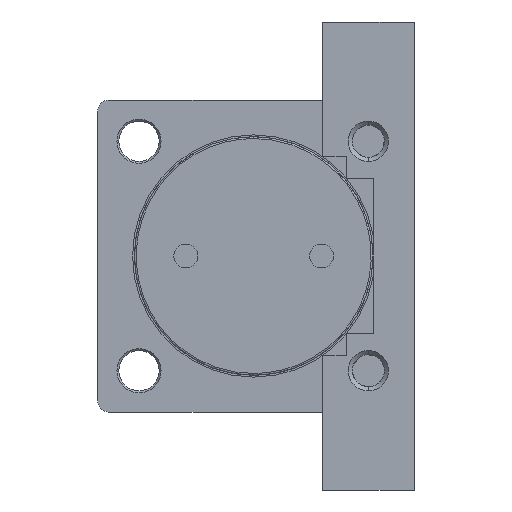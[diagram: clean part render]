
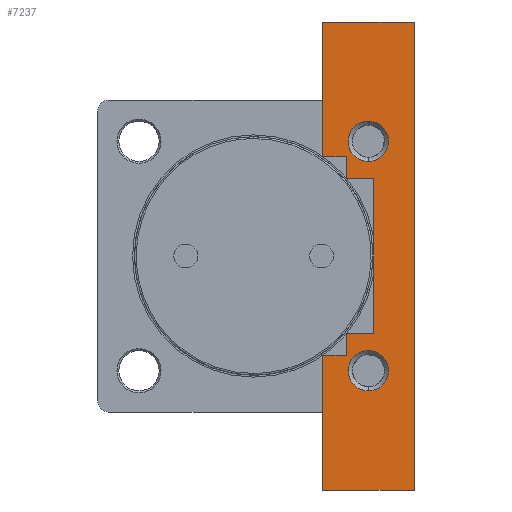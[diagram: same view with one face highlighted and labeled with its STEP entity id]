
A CAD part, left-side view. The second image highlights one B-rep face of the part: STEP entity #7237.
In plain terms, the highlighted planar face has unit normal (1, 0, 0).
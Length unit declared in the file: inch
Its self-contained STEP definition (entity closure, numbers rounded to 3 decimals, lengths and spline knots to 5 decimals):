
#202 = CARTESIAN_POINT ( 'NONE',  ( -3.01181, -1.98819, 1.65354 ) ) ;
#213 = FACE_OUTER_BOUND ( 'NONE', #12217, .T. ) ;
#378 = DIRECTION ( 'NONE',  ( 0., 1., 0. ) ) ;
#395 = CARTESIAN_POINT ( 'NONE',  ( -3.01181, -3.44488, -5.01969 ) ) ;
#454 = DIRECTION ( 'NONE',  ( 0., -1., 0. ) ) ;
#516 = CARTESIAN_POINT ( 'NONE',  ( -3.01181, -3.44488, -1.65354 ) ) ;
#545 = VECTOR ( 'NONE', #3763, 39.37008 ) ;
#566 = VECTOR ( 'NONE', #2225, 39.37008 ) ;
#682 = LINE ( 'NONE', #12810, #545 ) ;
#784 = LINE ( 'NONE', #8628, #566 ) ;
#795 = CARTESIAN_POINT ( 'NONE',  ( -3.01181, -2.46063, -2.02756 ) ) ;
#843 = ORIENTED_EDGE ( 'NONE', *, *, #10083, .T. ) ;
#872 = VERTEX_POINT ( 'NONE', #3889 ) ;
#931 = CARTESIAN_POINT ( 'NONE',  ( -3.01181, -1.98819, -2.12598 ) ) ;
#945 = VERTEX_POINT ( 'NONE', #3438 ) ;
#1006 = DIRECTION ( 'NONE',  ( 0., 0., -1. ) ) ;
#1017 = DIRECTION ( 'NONE',  ( 1., 0., 0. ) ) ;
#1030 = LINE ( 'NONE', #6356, #1151 ) ;
#1057 = ORIENTED_EDGE ( 'NONE', *, *, #2243, .T. ) ;
#1151 = VECTOR ( 'NONE', #5727, 39.37008 ) ;
#1153 = PLANE ( 'NONE',  #11974 ) ;
#1232 = EDGE_LOOP ( 'NONE', ( #2659, #843 ) ) ;
#1308 = VERTEX_POINT ( 'NONE', #202 ) ;
#1335 = ORIENTED_EDGE ( 'NONE', *, *, #6509, .T. ) ;
#1357 = CARTESIAN_POINT ( 'NONE',  ( -3.01181, -3.44488, 5.01969 ) ) ;
#1559 = CARTESIAN_POINT ( 'NONE',  ( -3.01181, -1.47638, 5.01969 ) ) ;
#1631 = DIRECTION ( 'NONE',  ( 0., 0., 1. ) ) ;
#1653 = ORIENTED_EDGE ( 'NONE', *, *, #4186, .T. ) ;
#1710 = VERTEX_POINT ( 'NONE', #9970 ) ;
#1752 = VERTEX_POINT ( 'NONE', #9692 ) ;
#2089 = LINE ( 'NONE', #516, #2244 ) ;
#2191 = LINE ( 'NONE', #395, #2228 ) ;
#2225 = DIRECTION ( 'NONE',  ( 0., -1., 0. ) ) ;
#2228 = VECTOR ( 'NONE', #378, 39.37008 ) ;
#2243 = EDGE_CURVE ( 'NONE', #15020, #3308, #10379, .T. ) ;
#2244 = VECTOR ( 'NONE', #454, 39.37008 ) ;
#2449 = DIRECTION ( 'NONE',  ( 0., 1., 0. ) ) ;
#2454 = DIRECTION ( 'NONE',  ( 0., 0., 1. ) ) ;
#2486 = DIRECTION ( 'NONE',  ( -1., 0., 0. ) ) ;
#2489 = CARTESIAN_POINT ( 'NONE',  ( -3.01181, -2.46063, -2.46063 ) ) ;
#2497 = AXIS2_PLACEMENT_3D ( 'NONE', #2489, #2486, #2454 ) ;
#2543 = AXIS2_PLACEMENT_3D ( 'NONE', #8802, #8787, #8782 ) ;
#2562 = CARTESIAN_POINT ( 'NONE',  ( -3.01181, -3.44488, 2.12598 ) ) ;
#2659 = ORIENTED_EDGE ( 'NONE', *, *, #3475, .T. ) ;
#2665 = DIRECTION ( 'NONE',  ( 0., 0., 1. ) ) ;
#2680 = CARTESIAN_POINT ( 'NONE',  ( -3.01181, -1.98819, 5.01969 ) ) ;
#2820 = VERTEX_POINT ( 'NONE', #11870 ) ;
#2875 = VECTOR ( 'NONE', #2665, 39.37008 ) ;
#2925 = VECTOR ( 'NONE', #2449, 39.37008 ) ;
#2938 = LINE ( 'NONE', #2680, #2875 ) ;
#2961 = CARTESIAN_POINT ( 'NONE',  ( -3.01181, -1.98819, -1.65354 ) ) ;
#2972 = LINE ( 'NONE', #2562, #2925 ) ;
#3067 = VERTEX_POINT ( 'NONE', #14129 ) ;
#3308 = VERTEX_POINT ( 'NONE', #12916 ) ;
#3342 = DIRECTION ( 'NONE',  ( -1., 0., 0. ) ) ;
#3438 = CARTESIAN_POINT ( 'NONE',  ( -3.01181, -2.57874, 1.65354 ) ) ;
#3475 = EDGE_CURVE ( 'NONE', #3067, #13756, #9301, .T. ) ;
#3574 = EDGE_CURVE ( 'NONE', #4068, #9415, #5342, .T. ) ;
#3595 = LINE ( 'NONE', #7763, #3723 ) ;
#3723 = VECTOR ( 'NONE', #7901, 39.37008 ) ;
#3744 = ORIENTED_EDGE ( 'NONE', *, *, #6675, .T. ) ;
#3763 = DIRECTION ( 'NONE',  ( 0., 1., 0. ) ) ;
#3779 = EDGE_CURVE ( 'NONE', #10064, #1710, #3595, .T. ) ;
#3889 = CARTESIAN_POINT ( 'NONE',  ( -3.01181, -1.47638, -5.01969 ) ) ;
#3923 = ORIENTED_EDGE ( 'NONE', *, *, #5588, .T. ) ;
#4068 = VERTEX_POINT ( 'NONE', #6773 ) ;
#4117 = ORIENTED_EDGE ( 'NONE', *, *, #7148, .T. ) ;
#4130 = EDGE_CURVE ( 'NONE', #9415, #14780, #2938, .T. ) ;
#4186 = EDGE_CURVE ( 'NONE', #1752, #2820, #2972, .T. ) ;
#4371 = ORIENTED_EDGE ( 'NONE', *, *, #3574, .T. ) ;
#4681 = EDGE_CURVE ( 'NONE', #14780, #12820, #2089, .T. ) ;
#4699 = EDGE_CURVE ( 'NONE', #10064, #872, #2191, .T. ) ;
#5160 = VERTEX_POINT ( 'NONE', #8413 ) ;
#5342 = LINE ( 'NONE', #10771, #10302 ) ;
#5385 = CARTESIAN_POINT ( 'NONE',  ( -3.01181, -2.57874, -1.65354 ) ) ;
#5398 = EDGE_CURVE ( 'NONE', #12820, #945, #1030, .T. ) ;
#5480 = CARTESIAN_POINT ( 'NONE',  ( -3.01181, -1.47638, 5.01969 ) ) ;
#5498 = DIRECTION ( 'NONE',  ( 0., 0., 1. ) ) ;
#5588 = EDGE_CURVE ( 'NONE', #5160, #1710, #784, .T. ) ;
#5727 = DIRECTION ( 'NONE',  ( 0., 0., 1. ) ) ;
#5738 = EDGE_CURVE ( 'NONE', #945, #1308, #682, .T. ) ;
#6082 = FACE_BOUND ( 'NONE', #9897, .T. ) ;
#6220 = ORIENTED_EDGE ( 'NONE', *, *, #4130, .T. ) ;
#6356 = CARTESIAN_POINT ( 'NONE',  ( -3.01181, -2.57874, 5.01969 ) ) ;
#6384 = EDGE_CURVE ( 'NONE', #1308, #1752, #11793, .T. ) ;
#6402 = ORIENTED_EDGE ( 'NONE', *, *, #4681, .T. ) ;
#6509 = EDGE_CURVE ( 'NONE', #3308, #15020, #6992, .T. ) ;
#6551 = ORIENTED_EDGE ( 'NONE', *, *, #5398, .T. ) ;
#6627 = ORIENTED_EDGE ( 'NONE', *, *, #5738, .T. ) ;
#6675 = EDGE_CURVE ( 'NONE', #2820, #5160, #14912, .T. ) ;
#6773 = CARTESIAN_POINT ( 'NONE',  ( -3.01181, -1.47638, -2.12598 ) ) ;
#6787 = ORIENTED_EDGE ( 'NONE', *, *, #6384, .T. ) ;
#6992 = CIRCLE ( 'NONE', #2543, 0.43307 ) ;
#7148 = EDGE_CURVE ( 'NONE', #872, #4068, #7451, .T. ) ;
#7237 = ADVANCED_FACE ( 'NONE', ( #8297, #6082, #213 ), #1153, .T. ) ;
#7451 = LINE ( 'NONE', #1559, #8253 ) ;
#7664 = ORIENTED_EDGE ( 'NONE', *, *, #4699, .T. ) ;
#7763 = CARTESIAN_POINT ( 'NONE',  ( -3.01181, -3.44488, 5.01969 ) ) ;
#7901 = DIRECTION ( 'NONE',  ( 0., 0., 1. ) ) ;
#8253 = VECTOR ( 'NONE', #1631, 39.37008 ) ;
#8297 = FACE_BOUND ( 'NONE', #1232, .T. ) ;
#8413 = CARTESIAN_POINT ( 'NONE',  ( -3.01181, -1.47638, 5.01969 ) ) ;
#8554 = AXIS2_PLACEMENT_3D ( 'NONE', #10937, #10924, #10920 ) ;
#8583 = CARTESIAN_POINT ( 'NONE',  ( -3.01181, -3.44488, -5.01969 ) ) ;
#8628 = CARTESIAN_POINT ( 'NONE',  ( -3.01181, -3.44488, 5.01969 ) ) ;
#8782 = DIRECTION ( 'NONE',  ( 0., 0., 1. ) ) ;
#8787 = DIRECTION ( 'NONE',  ( -1., 0., 0. ) ) ;
#8802 = CARTESIAN_POINT ( 'NONE',  ( -3.01181, -2.46063, -2.46063 ) ) ;
#9301 = CIRCLE ( 'NONE', #8554, 0.43307 ) ;
#9415 = VERTEX_POINT ( 'NONE', #931 ) ;
#9692 = CARTESIAN_POINT ( 'NONE',  ( -3.01181, -1.98819, 2.12598 ) ) ;
#9875 = DIRECTION ( 'NONE',  ( 0., 0., 1. ) ) ;
#9897 = EDGE_LOOP ( 'NONE', ( #1057, #1335 ) ) ;
#9956 = CARTESIAN_POINT ( 'NONE',  ( -3.01181, -1.98819, 5.01969 ) ) ;
#9970 = CARTESIAN_POINT ( 'NONE',  ( -3.01181, -3.44488, 5.01969 ) ) ;
#10064 = VERTEX_POINT ( 'NONE', #8583 ) ;
#10083 = EDGE_CURVE ( 'NONE', #13756, #3067, #12571, .T. ) ;
#10302 = VECTOR ( 'NONE', #10787, 39.37008 ) ;
#10379 = CIRCLE ( 'NONE', #2497, 0.43307 ) ;
#10771 = CARTESIAN_POINT ( 'NONE',  ( -3.01181, -3.44488, -2.12598 ) ) ;
#10787 = DIRECTION ( 'NONE',  ( 0., -1., 0. ) ) ;
#10831 = VECTOR ( 'NONE', #5498, 39.37008 ) ;
#10920 = DIRECTION ( 'NONE',  ( 0., 0., 1. ) ) ;
#10924 = DIRECTION ( 'NONE',  ( -1., 0., 0. ) ) ;
#10937 = CARTESIAN_POINT ( 'NONE',  ( -3.01181, -2.46063, 2.46063 ) ) ;
#10997 = DIRECTION ( 'NONE',  ( 0., 0., 1. ) ) ;
#11478 = VECTOR ( 'NONE', #9875, 39.37008 ) ;
#11793 = LINE ( 'NONE', #9956, #11478 ) ;
#11870 = CARTESIAN_POINT ( 'NONE',  ( -3.01181, -1.47638, 2.12598 ) ) ;
#11974 = AXIS2_PLACEMENT_3D ( 'NONE', #1357, #1017, #1006 ) ;
#12217 = EDGE_LOOP ( 'NONE', ( #1653, #3744, #3923, #13899, #7664, #4117, #4371, #6220, #6402, #6551, #6627, #6787 ) ) ;
#12571 = CIRCLE ( 'NONE', #14080, 0.43307 ) ;
#12810 = CARTESIAN_POINT ( 'NONE',  ( -3.01181, -3.44488, 1.65354 ) ) ;
#12820 = VERTEX_POINT ( 'NONE', #5385 ) ;
#12881 = CARTESIAN_POINT ( 'NONE',  ( -3.01181, -2.46063, 2.02756 ) ) ;
#12916 = CARTESIAN_POINT ( 'NONE',  ( -3.01181, -2.46063, -2.8937 ) ) ;
#13420 = CARTESIAN_POINT ( 'NONE',  ( -3.01181, -2.46063, 2.46063 ) ) ;
#13756 = VERTEX_POINT ( 'NONE', #12881 ) ;
#13899 = ORIENTED_EDGE ( 'NONE', *, *, #3779, .F. ) ;
#14080 = AXIS2_PLACEMENT_3D ( 'NONE', #13420, #3342, #10997 ) ;
#14129 = CARTESIAN_POINT ( 'NONE',  ( -3.01181, -2.46063, 2.8937 ) ) ;
#14780 = VERTEX_POINT ( 'NONE', #2961 ) ;
#14912 = LINE ( 'NONE', #5480, #10831 ) ;
#15020 = VERTEX_POINT ( 'NONE', #795 ) ;
